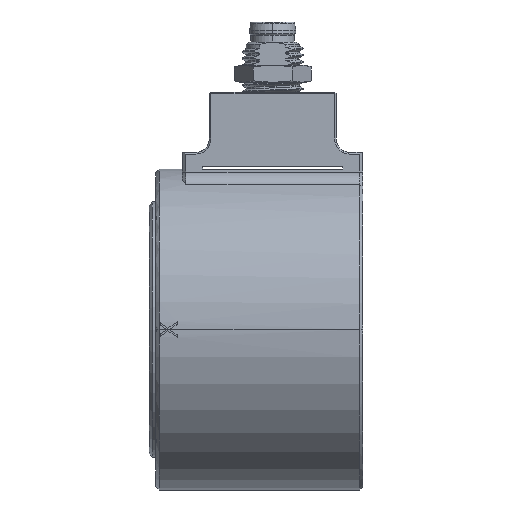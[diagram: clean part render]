
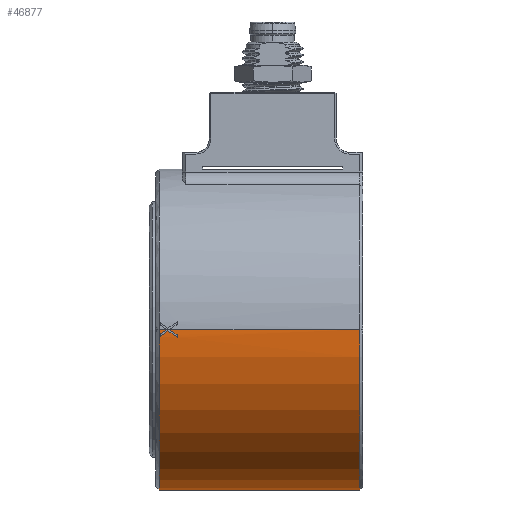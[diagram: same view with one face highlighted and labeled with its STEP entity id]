
A CAD part, left-side view. The second image highlights one B-rep face of the part: STEP entity #46877.
In plain terms, the highlighted cylindrical face has radius 24 mm (diameter 48 mm), a partial arc.
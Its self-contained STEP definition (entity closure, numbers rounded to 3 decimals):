
#281 = CARTESIAN_POINT ( 'NONE',  ( 0., 30.5, 0. ) ) ;
#1846 = CARTESIAN_POINT ( 'NONE',  ( -24., 11., 0. ) ) ;
#3210 = DIRECTION ( 'NONE',  ( 0., 1., 0. ) ) ;
#3605 = ORIENTED_EDGE ( 'NONE', *, *, #49079, .T. ) ;
#4005 = VECTOR ( 'NONE', #90908, 1000. ) ;
#4966 = VERTEX_POINT ( 'NONE', #14585 ) ;
#6102 = CARTESIAN_POINT ( 'NONE',  ( -24., 29.435, 0. ) ) ;
#6599 = CARTESIAN_POINT ( 'NONE',  ( -23.997, 29.568, -0.468 ) ) ;
#7674 = ORIENTED_EDGE ( 'NONE', *, *, #41697, .T. ) ;
#8561 = CARTESIAN_POINT ( 'NONE',  ( 0., 30.358, 0. ) ) ;
#9999 = CARTESIAN_POINT ( 'NONE',  ( 24., 30.5, 0. ) ) ;
#10408 = EDGE_CURVE ( 'NONE', #68515, #38901, #55690, .T. ) ;
#10439 = ORIENTED_EDGE ( 'NONE', *, *, #97677, .T. ) ;
#10831 = B_SPLINE_CURVE_WITH_KNOTS ( 'NONE', 3,
 ( #103156, #19907, #20435, #28517 ),
 .UNSPECIFIED., .F., .F.,
 ( 4, 4 ),
 ( 0., 1. ),
 .UNSPECIFIED. ) ;
#11841 = AXIS2_PLACEMENT_3D ( 'NONE', #96935, #22886, #88826 ) ;
#12054 = LINE ( 'NONE', #61190, #88693 ) ;
#13103 = CARTESIAN_POINT ( 'NONE',  ( -23.991, 30.358, -0.658 ) ) ;
#14585 = CARTESIAN_POINT ( 'NONE',  ( -23.987, 27.8, -0.793 ) ) ;
#16702 = ORIENTED_EDGE ( 'NONE', *, *, #10408, .T. ) ;
#19460 = CARTESIAN_POINT ( 'NONE',  ( -24., 28.911, 0. ) ) ;
#19907 = CARTESIAN_POINT ( 'NONE',  ( -24., 28.541, -0.264 ) ) ;
#20055 = CARTESIAN_POINT ( 'NONE',  ( -23.999, 29.173, -0.186 ) ) ;
#20331 = CARTESIAN_POINT ( 'NONE',  ( -23.988, 28.258, -0.84 ) ) ;
#20435 = CARTESIAN_POINT ( 'NONE',  ( -23.996, 28.17, -0.529 ) ) ;
#21682 = CARTESIAN_POINT ( 'NONE',  ( -23.997, 30.05, -0.439 ) ) ;
#22886 = DIRECTION ( 'NONE',  ( 0., 1., 0. ) ) ;
#23766 = CARTESIAN_POINT ( 'NONE',  ( -23.99, 29.963, -0.75 ) ) ;
#25193 = DIRECTION ( 'NONE',  ( 0., 1., 0. ) ) ;
#25919 = LINE ( 'NONE', #58936, #29531 ) ;
#28095 = VERTEX_POINT ( 'NONE', #57625 ) ;
#28417 = CARTESIAN_POINT ( 'NONE',  ( -23.972, 27.8, -1.166 ) ) ;
#28517 = CARTESIAN_POINT ( 'NONE',  ( -23.987, 27.8, -0.793 ) ) ;
#29531 = VECTOR ( 'NONE', #76740, 1000. ) ;
#30268 = ORIENTED_EDGE ( 'NONE', *, *, #58600, .T. ) ;
#31388 = AXIS2_PLACEMENT_3D ( 'NONE', #281, #82337, #57981 ) ;
#31474 = ORIENTED_EDGE ( 'NONE', *, *, #102792, .F. ) ;
#32449 = CARTESIAN_POINT ( 'NONE',  ( -24., 30.5, 0. ) ) ;
#33756 = CIRCLE ( 'NONE', #71790, 24. ) ;
#36778 = VERTEX_POINT ( 'NONE', #102336 ) ;
#36894 = CARTESIAN_POINT ( 'NONE',  ( -24., 29.743, -0.219 ) ) ;
#38901 = VERTEX_POINT ( 'NONE', #106683 ) ;
#39624 = VERTEX_POINT ( 'NONE', #9999 ) ;
#41697 = EDGE_CURVE ( 'NONE', #36778, #68515, #50764, .T. ) ;
#45700 = DIRECTION ( 'NONE',  ( 1., 0., 0. ) ) ;
#46877 = ADVANCED_FACE ( 'NONE', ( #98827 ), #91219, .T. ) ;
#49079 = EDGE_CURVE ( 'NONE', #85981, #39624, #103918, .T. ) ;
#49529 = EDGE_CURVE ( 'NONE', #98719, #85981, #57959, .T. ) ;
#50764 = B_SPLINE_CURVE_WITH_KNOTS ( 'NONE', 3,
 ( #28417, #20331, #67401, #51209 ),
 .UNSPECIFIED., .F., .F.,
 ( 4, 4 ),
 ( 0., 1. ),
 .UNSPECIFIED. ) ;
#51209 = CARTESIAN_POINT ( 'NONE',  ( -23.999, 29.173, -0.186 ) ) ;
#52180 = DIRECTION ( 'NONE',  ( 0., 1., 0. ) ) ;
#53347 = ORIENTED_EDGE ( 'NONE', *, *, #63984, .T. ) ;
#54295 = EDGE_LOOP ( 'NONE', ( #31474, #10439, #53347, #55326, #87452, #7674, #16702, #95843, #30268, #56462, #3605 ) ) ;
#55326 = ORIENTED_EDGE ( 'NONE', *, *, #90414, .T. ) ;
#55690 = B_SPLINE_CURVE_WITH_KNOTS ( 'NONE', 3,
 ( #20055, #6599, #23766, #81119 ),
 .UNSPECIFIED., .F., .F.,
 ( 4, 4 ),
 ( 0., 1. ),
 .UNSPECIFIED. ) ;
#56462 = ORIENTED_EDGE ( 'NONE', *, *, #49529, .T. ) ;
#57625 = CARTESIAN_POINT ( 'NONE',  ( 24., 0.5, 0. ) ) ;
#57744 = CARTESIAN_POINT ( 'NONE',  ( -24., 0.5, 0. ) ) ;
#57959 = LINE ( 'NONE', #1846, #4005 ) ;
#57981 = DIRECTION ( 'NONE',  ( 1., 0., 0. ) ) ;
#58600 = EDGE_CURVE ( 'NONE', #102229, #98719, #91430, .T. ) ;
#58936 = CARTESIAN_POINT ( 'NONE',  ( -24., 11., 0. ) ) ;
#61190 = CARTESIAN_POINT ( 'NONE',  ( 24., 11., 0. ) ) ;
#63984 = EDGE_CURVE ( 'NONE', #66353, #96204, #25919, .T. ) ;
#64673 = CARTESIAN_POINT ( 'NONE',  ( -23.999, 29.173, -0.186 ) ) ;
#66353 = VERTEX_POINT ( 'NONE', #57744 ) ;
#66942 = CIRCLE ( 'NONE', #96331, 24. ) ;
#67401 = CARTESIAN_POINT ( 'NONE',  ( -23.997, 28.716, -0.513 ) ) ;
#68515 = VERTEX_POINT ( 'NONE', #64673 ) ;
#71790 = AXIS2_PLACEMENT_3D ( 'NONE', #8561, #25193, #90108 ) ;
#73381 = CARTESIAN_POINT ( 'NONE',  ( -23.991, 30.358, -0.658 ) ) ;
#75949 = CARTESIAN_POINT ( 'NONE',  ( -24., 29.435, 0. ) ) ;
#76740 = DIRECTION ( 'NONE',  ( 0., 1., 0. ) ) ;
#77735 = DIRECTION ( 'NONE',  ( -1., 0., 0. ) ) ;
#79810 = EDGE_CURVE ( 'NONE', #38901, #102229, #33756, .T. ) ;
#81119 = CARTESIAN_POINT ( 'NONE',  ( -23.978, 30.358, -1.032 ) ) ;
#82337 = DIRECTION ( 'NONE',  ( 0., -1., 0. ) ) ;
#85981 = VERTEX_POINT ( 'NONE', #32449 ) ;
#86381 = CARTESIAN_POINT ( 'NONE',  ( 0., 11., 0. ) ) ;
#87452 = ORIENTED_EDGE ( 'NONE', *, *, #97841, .F. ) ;
#87805 = CIRCLE ( 'NONE', #11841, 24. ) ;
#88693 = VECTOR ( 'NONE', #94130, 1000. ) ;
#88826 = DIRECTION ( 'NONE',  ( -0.999, 0., -0.033 ) ) ;
#90108 = DIRECTION ( 'NONE',  ( -1., 0., -0.027 ) ) ;
#90414 = EDGE_CURVE ( 'NONE', #96204, #4966, #10831, .T. ) ;
#90908 = DIRECTION ( 'NONE',  ( 0., 1., 0. ) ) ;
#91219 = CYLINDRICAL_SURFACE ( 'NONE', #100092, 24. ) ;
#91430 = B_SPLINE_CURVE_WITH_KNOTS ( 'NONE', 3,
 ( #13103, #21682, #36894, #6102 ),
 .UNSPECIFIED., .F., .F.,
 ( 4, 4 ),
 ( 0., 1. ),
 .UNSPECIFIED. ) ;
#94130 = DIRECTION ( 'NONE',  ( 0., 1., 0. ) ) ;
#95843 = ORIENTED_EDGE ( 'NONE', *, *, #79810, .T. ) ;
#96204 = VERTEX_POINT ( 'NONE', #19460 ) ;
#96331 = AXIS2_PLACEMENT_3D ( 'NONE', #101862, #52180, #45700 ) ;
#96935 = CARTESIAN_POINT ( 'NONE',  ( 0., 27.8, 0. ) ) ;
#97677 = EDGE_CURVE ( 'NONE', #28095, #66353, #66942, .T. ) ;
#97841 = EDGE_CURVE ( 'NONE', #36778, #4966, #87805, .T. ) ;
#98719 = VERTEX_POINT ( 'NONE', #75949 ) ;
#98827 = FACE_OUTER_BOUND ( 'NONE', #54295, .T. ) ;
#100092 = AXIS2_PLACEMENT_3D ( 'NONE', #86381, #3210, #77735 ) ;
#101862 = CARTESIAN_POINT ( 'NONE',  ( 0., 0.5, 0. ) ) ;
#102229 = VERTEX_POINT ( 'NONE', #73381 ) ;
#102336 = CARTESIAN_POINT ( 'NONE',  ( -23.972, 27.8, -1.166 ) ) ;
#102792 = EDGE_CURVE ( 'NONE', #28095, #39624, #12054, .T. ) ;
#103156 = CARTESIAN_POINT ( 'NONE',  ( -24., 28.911, 0. ) ) ;
#103918 = CIRCLE ( 'NONE', #31388, 24. ) ;
#106683 = CARTESIAN_POINT ( 'NONE',  ( -23.978, 30.358, -1.032 ) ) ;
